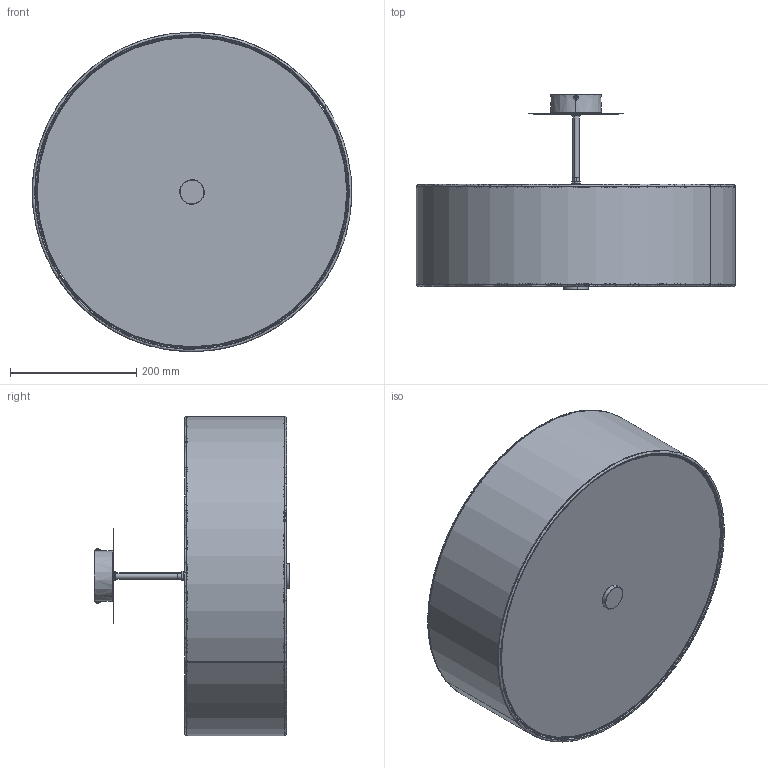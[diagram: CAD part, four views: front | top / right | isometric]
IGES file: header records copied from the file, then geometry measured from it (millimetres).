
Start section: SolidWorks IGES file using analytic representation for surfaces
Global section: file name: Z:\Modele 3D_WWW\_KOLEKCJE_WWW\VIVIANE\VIVIANE-6391-6532-6390\VIVIANE-6391-6532-6390.IGS; native system: SolidWorks 2020; preprocessor: SolidWorks 2020; author: gabriela.tworek; date: 210322.110321; units: millimetre
Bounding box: 505.45 x 309.08 x 505.66 mm (x, y, z)
Surface area: 1173533.5 mm2 (no closed solid volume)
Topology: 0 solids, 0 shells, 487 faces, 6045 edges, 6035 vertices
Faces by surface type: bspline 302, revolution 185
